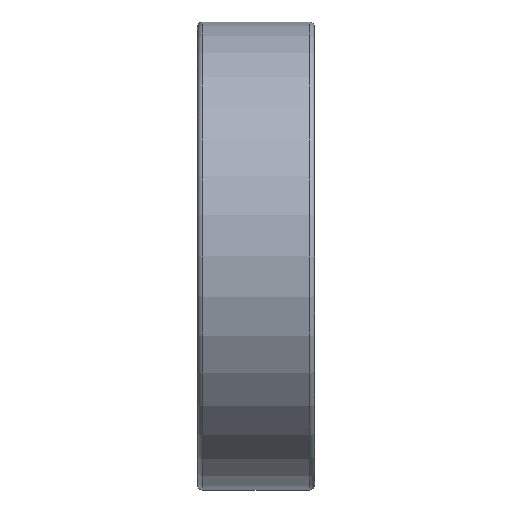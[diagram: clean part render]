
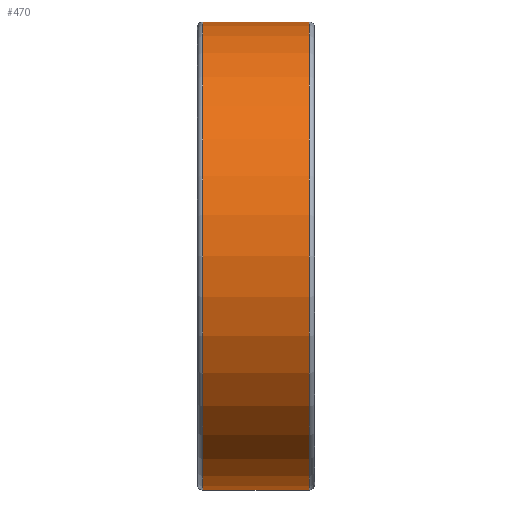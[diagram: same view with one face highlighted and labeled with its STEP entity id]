
A CAD part, front view. The second image highlights one B-rep face of the part: STEP entity #470.
In plain terms, the highlighted cylindrical face has radius 14 mm (diameter 28 mm), a full revolution.
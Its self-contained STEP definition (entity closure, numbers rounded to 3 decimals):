
#152=CYLINDRICAL_SURFACE('',#722,14.);
#232=EDGE_LOOP('',(#324));
#233=EDGE_LOOP('',(#325));
#324=ORIENTED_EDGE('',*,*,#378,.F.);
#325=ORIENTED_EDGE('',*,*,#376,.T.);
#376=EDGE_CURVE('',#659,#659,#396,.T.);
#378=EDGE_CURVE('',#661,#661,#398,.T.);
#396=CIRCLE('',#718,14.);
#398=CIRCLE('',#721,14.);
#470=ADVANCED_FACE('',(#581,#582),#152,.T.);
#581=FACE_BOUND('',#232,.T.);
#582=FACE_BOUND('',#233,.T.);
#659=VERTEX_POINT('',#2474);
#661=VERTEX_POINT('',#2479);
#718=AXIS2_PLACEMENT_3D('',#2473,#831,#832);
#721=AXIS2_PLACEMENT_3D('',#2478,#837,#838);
#722=AXIS2_PLACEMENT_3D('',#2480,#839,#840);
#831=DIRECTION('',(1.,0.,0.));
#832=DIRECTION('',(0.,0.,-1.));
#837=DIRECTION('',(1.,0.,0.));
#838=DIRECTION('',(0.,0.,-1.));
#839=DIRECTION('',(1.,0.,0.));
#840=DIRECTION('',(0.,0.,-1.));
#2473=CARTESIAN_POINT('',(-3.2,0.,0.));
#2474=CARTESIAN_POINT('',(-3.2,0.,-14.));
#2478=CARTESIAN_POINT('',(3.2,0.,0.));
#2479=CARTESIAN_POINT('',(3.2,0.,-14.));
#2480=CARTESIAN_POINT('',(-3.2,0.,0.));
